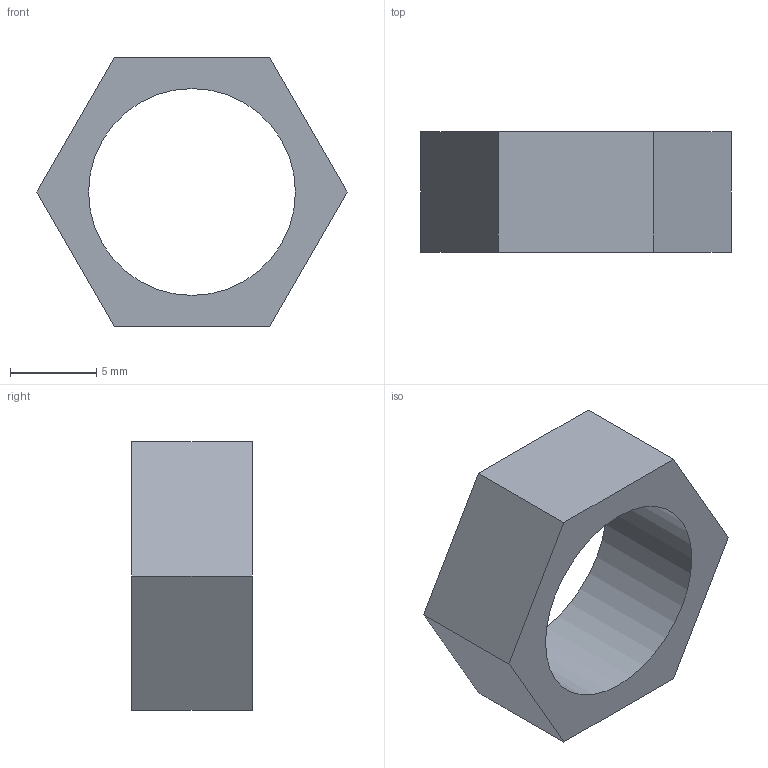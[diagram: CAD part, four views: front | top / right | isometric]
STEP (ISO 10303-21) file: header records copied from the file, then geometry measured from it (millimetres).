
FILE_DESCRIPTION(('Open CASCADE Model'),'2;1');
FILE_NAME('Open CASCADE Shape Model','2026-10-20T13:19:35',('Author'),( 'Open CASCADE'),'Open CASCADE STEP processor 7.9','Open CASCADE 7.9' ,'Unknown');
FILE_SCHEMA(('AUTOMOTIVE_DESIGN { 1 0 10303 214 1 1 1 1 }'));
Length unit declared in the file: millimetre
Products named in the file (1): Open CASCADE STEP translator 7.9 42
Bounding box: 18 x 7 x 15.59 mm (x, y, z)
Volume: 681.4 mm3; surface area: 836.6 mm2
Topology: 1 solids, 1 shells, 9 faces, 21 edges, 14 vertices
Faces by surface type: plane 8, cylinder 1
Full cylindrical faces by diameter (mm): 12 x1
Entity records: 550 total; most frequent: CARTESIAN_POINT 99, DIRECTION 83, LINE 59, VECTOR 59, ORIENTED_EDGE 42, PCURVE 42, DEFINITIONAL_REPRESENTATION 42, EDGE_CURVE 21
